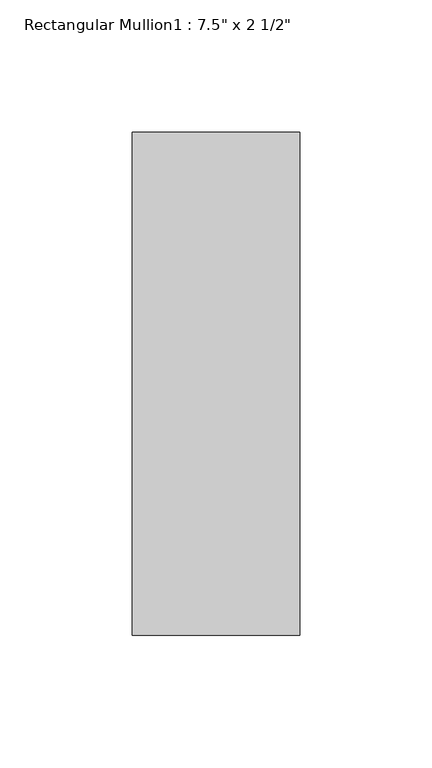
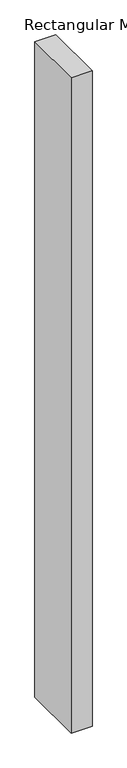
"""IFC4 building model written with IfcOpenShell, lengths in millimetres: member geometry."""

from ifc_helpers import new_model, si_unit, frame, origin, place, context, project, spatial, polyline, outline, extrude, source, transform, mapped, element, save


def member_68776bbf(model_context):
    return source(origin(), model_context, "Body", "SweptSolid", [
        extrude(outline(polyline([(31.75, 165.1), (31.75, -25.4), (-31.75, -25.4), (-31.75, 165.1), (31.75, 165.1)])), frame((0.0, 0.0, -2101.85), z_axis=(0.0, 0.0, 1.0), x_axis=(1.0, 0.0, 0.0)), (0.0, 0.0, 1.0), 2101.85),
    ])


if __name__ == "__main__":
    model = new_model("IFC4")
    model_context = context("Model", 3, world=origin())
    ifc_project = project(units=[si_unit("LENGTHUNIT", "METRE", prefix="MILLI")], contexts=[model_context])
    site = spatial("IfcSite", under=ifc_project)
    building = spatial("IfcBuilding", under=site)
    placement = place(None, origin())
    member_shape = member_68776bbf(model_context)
    element("IfcMember", 1, ObjectType="Rectangular Mullion1 : 7.5\" x 2 1/2\"", at=placement, inside=building, context=model_context, shape_type="MappedRepresentation", body=[
        mapped(member_shape, transform((0.0, 0.0, 0.0), x_axis=(1.0, 0.0, 0.0), y_axis=(0.0, 1.0, 0.0), z_axis=(0.0, 0.0, 1.0))),
    ])
    save(model, "model.ifc")
